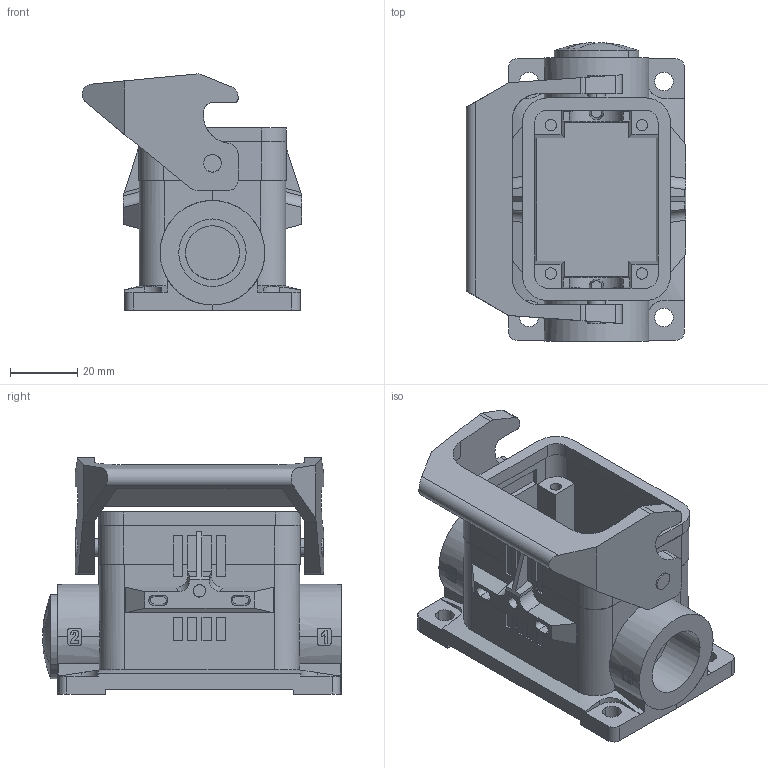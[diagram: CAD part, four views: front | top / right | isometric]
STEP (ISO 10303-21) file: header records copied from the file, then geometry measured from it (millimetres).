
FILE_DESCRIPTION(('SolidDesigner STEP Export'),'2;1');
FILE_NAME('1412821_HC_STA_B06_SLWS_2SSM20_ELC_AL-select.stp','2017-02-24T 7:08:54',(''),(''),'Creo Elements/Direct Modeling STEP processor for AP214 (Solid Model)','Creo Elements/Direct Modeling 18.1G 27-Feb-2015 (C) Parametric Technology GmbH','');
FILE_SCHEMA(('AUTOMOTIVE_DESIGN { 1 0 10303 214 1 1 1 1 }'));
Length unit declared in the file: millimetre
Products named in the file (2): 1412821_HC_STA_B06_SLWS_2SSM20_ELC_AL-select
Assembly tree (1 placements, depth 2):
  1412821_HC_STA_B06_SLWS_2SSM20_ELC_AL-select
    1412821_HC_STA_B06_SLWS_2SSM20_ELC_AL-select
Bounding box: 65.12 x 88.43 x 70.01 mm (x, y, z)
Volume: 86418.1 mm3; surface area: 40292.4 mm2
Topology: 1 solids, 1 shells, 393 faces, 1079 edges, 717 vertices
Faces by surface type: plane 258, cylinder 104, cone 14, extrusion 13, bspline 2, sphere 2
Entity records: 14819 total; most frequent: CARTESIAN_POINT 4413, ORIENTED_EDGE 2158, DIRECTION 1811, EDGE_CURVE 1079, VECTOR 771, LINE 758, VERTEX_POINT 717, AXIS2_PLACEMENT_3D 520
